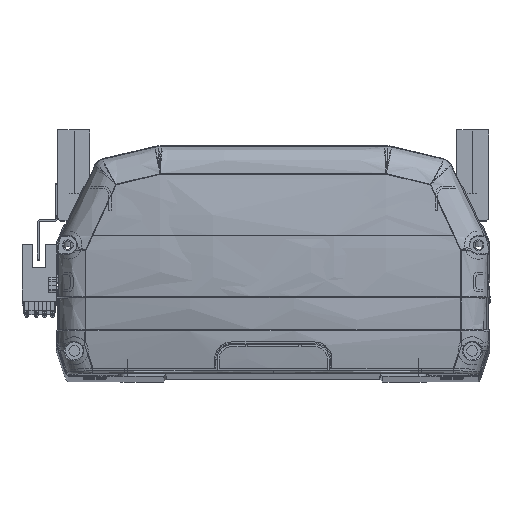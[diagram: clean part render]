
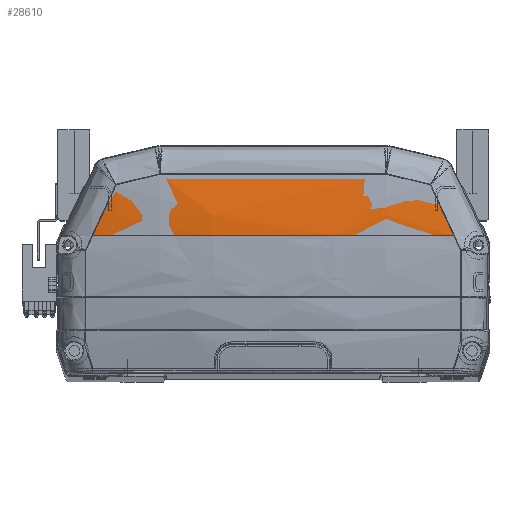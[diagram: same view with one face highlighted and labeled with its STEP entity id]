
A CAD part, top view. The second image highlights one B-rep face of the part: STEP entity #28610.
In plain terms, the highlighted toroidal (fillet/blend) face has major radius 312.5 mm and minor radius 572.4 mm.
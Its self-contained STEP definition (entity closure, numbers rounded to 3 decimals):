
#109 = CARTESIAN_POINT ( 'NONE',  ( -61.718, 75.278, -4.232 ) ) ;
#1099 = CARTESIAN_POINT ( 'NONE',  ( 44.331, 79.443, -2.97 ) ) ;
#1303 = DIRECTION ( 'NONE',  ( 0., 1., 0. ) ) ;
#2335 = AXIS2_PLACEMENT_3D ( 'NONE', #19687, #14295, #39690 ) ;
#2338 = CARTESIAN_POINT ( 'NONE',  ( -64.813, 68.545, -4.11 ) ) ;
#2477 = CARTESIAN_POINT ( 'NONE',  ( -67.917, 61.816, -4.208 ) ) ;
#3197 = VERTEX_POINT ( 'NONE', #26220 ) ;
#3637 = CARTESIAN_POINT ( 'NONE',  ( 71.027, 55.096, -4.524 ) ) ;
#3901 = CARTESIAN_POINT ( 'NONE',  ( 61.718, 75.278, -4.232 ) ) ;
#4415 = B_SPLINE_CURVE_WITH_KNOTS ( 'NONE', 3,
 ( #24257, #30210, #18079, #21319, #24110, #24382 ),
 .UNSPECIFIED., .F., .F.,
 ( 4, 2, 4 ),
 ( 0., 0.044, 0.089 ),
 .UNSPECIFIED. ) ;
#4791 = CARTESIAN_POINT ( 'NONE',  ( 71.027, 55.096, -4.524 ) ) ;
#5589 = CARTESIAN_POINT ( 'NONE',  ( -44.331, 79.443, -2.97 ) ) ;
#5936 = CARTESIAN_POINT ( 'NONE',  ( -71.027, 55.096, -4.524 ) ) ;
#6529 = VERTEX_POINT ( 'NONE', #5589 ) ;
#6772 = EDGE_CURVE ( 'NONE', #37073, #3197, #20478, .T. ) ;
#8095 = CARTESIAN_POINT ( 'NONE',  ( 55.929, 76.66, -3.711 ) ) ;
#8923 = CARTESIAN_POINT ( 'NONE',  ( -69.472, 58.454, -4.329 ) ) ;
#10374 = EDGE_LOOP ( 'NONE', ( #11947, #26284, #31065, #37841, #35741, #16845 ) ) ;
#11947 = ORIENTED_EDGE ( 'NONE', *, *, #20375, .F. ) ;
#12526 = CIRCLE ( 'NONE', #29081, 572.4 ) ;
#12691 = EDGE_CURVE ( 'NONE', #20290, #18942, #12526, .T. ) ;
#13241 = CARTESIAN_POINT ( 'NONE',  ( -61.718, 75.278, -4.232 ) ) ;
#14295 = DIRECTION ( 'NONE',  ( 1., 0., 0. ) ) ;
#16845 = ORIENTED_EDGE ( 'NONE', *, *, #27640, .F. ) ;
#17156 = B_SPLINE_CURVE_WITH_KNOTS ( 'NONE', 3,
 ( #5936, #8923, #2477, #2338, #24940, #40680 ),
 .UNSPECIFIED., .F., .F.,
 ( 4, 2, 4 ),
 ( 0.006, 0.017, 0.029 ),
 .UNSPECIFIED. ) ;
#18079 = CARTESIAN_POINT ( 'NONE',  ( -14.788, 79.361, -1.235 ) ) ;
#18942 = VERTEX_POINT ( 'NONE', #4791 ) ;
#19687 = CARTESIAN_POINT ( 'NONE',  ( 0., 55.096, -260. ) ) ;
#20290 = VERTEX_POINT ( 'NONE', #21254 ) ;
#20375 = EDGE_CURVE ( 'NONE', #20290, #34983, #17156, .T. ) ;
#20478 = B_SPLINE_CURVE_WITH_KNOTS ( 'NONE', 3,
 ( #1099, #30513, #8095, #39578 ),
 .UNSPECIFIED., .F., .F.,
 ( 4, 4 ),
 ( 0., 0.018 ),
 .UNSPECIFIED. ) ;
#20593 = TOROIDAL_SURFACE ( 'NONE', #2335, -312.5, 572.4 ) ;
#21254 = CARTESIAN_POINT ( 'NONE',  ( -71.027, 55.096, -4.524 ) ) ;
#21319 = CARTESIAN_POINT ( 'NONE',  ( 14.805, 79.361, -1.235 ) ) ;
#24110 = CARTESIAN_POINT ( 'NONE',  ( 29.579, 79.389, -1.814 ) ) ;
#24257 = CARTESIAN_POINT ( 'NONE',  ( -44.331, 79.443, -2.97 ) ) ;
#24382 = CARTESIAN_POINT ( 'NONE',  ( 44.331, 79.443, -2.97 ) ) ;
#24940 = CARTESIAN_POINT ( 'NONE',  ( -63.264, 71.911, -4.135 ) ) ;
#26117 = CARTESIAN_POINT ( 'NONE',  ( -44.331, 79.443, -2.97 ) ) ;
#26220 = CARTESIAN_POINT ( 'NONE',  ( 61.718, 75.278, -4.232 ) ) ;
#26246 = CARTESIAN_POINT ( 'NONE',  ( 67.917, 61.809, -4.135 ) ) ;
#26284 = ORIENTED_EDGE ( 'NONE', *, *, #12691, .T. ) ;
#27079 = FACE_OUTER_BOUND ( 'NONE', #10374, .T. ) ;
#27138 = CARTESIAN_POINT ( 'NONE',  ( 0., 55.096, -572.5 ) ) ;
#27640 = EDGE_CURVE ( 'NONE', #34983, #6529, #29467, .T. ) ;
#28610 = ADVANCED_FACE ( 'NONE', ( #27079 ), #20593, .T. ) ;
#29081 = AXIS2_PLACEMENT_3D ( 'NONE', #27138, #1303, #30440 ) ;
#29467 = B_SPLINE_CURVE_WITH_KNOTS ( 'NONE', 3,
 ( #13241, #38798, #39060, #26117 ),
 .UNSPECIFIED., .F., .F.,
 ( 4, 4 ),
 ( 0., 0.018 ),
 .UNSPECIFIED. ) ;
#30210 = CARTESIAN_POINT ( 'NONE',  ( -29.579, 79.39, -1.814 ) ) ;
#30440 = DIRECTION ( 'NONE',  ( 0., 0., 1. ) ) ;
#30513 = CARTESIAN_POINT ( 'NONE',  ( 50.132, 78.049, -3.29 ) ) ;
#31065 = ORIENTED_EDGE ( 'NONE', *, *, #31442, .F. ) ;
#31442 = EDGE_CURVE ( 'NONE', #3197, #18942, #38378, .T. ) ;
#34983 = VERTEX_POINT ( 'NONE', #109 ) ;
#35701 = CARTESIAN_POINT ( 'NONE',  ( 64.811, 68.545, -4.037 ) ) ;
#35741 = ORIENTED_EDGE ( 'NONE', *, *, #41355, .F. ) ;
#36255 = CARTESIAN_POINT ( 'NONE',  ( 44.331, 79.443, -2.97 ) ) ;
#37073 = VERTEX_POINT ( 'NONE', #36255 ) ;
#37841 = ORIENTED_EDGE ( 'NONE', *, *, #6772, .F. ) ;
#38378 = B_SPLINE_CURVE_WITH_KNOTS ( 'NONE', 3,
 ( #3901, #35701, #26246, #3637 ),
 .UNSPECIFIED., .F., .F.,
 ( 4, 4 ),
 ( 0., 0.022 ),
 .UNSPECIFIED. ) ;
#38798 = CARTESIAN_POINT ( 'NONE',  ( -55.929, 76.661, -3.711 ) ) ;
#39060 = CARTESIAN_POINT ( 'NONE',  ( -50.132, 78.049, -3.29 ) ) ;
#39578 = CARTESIAN_POINT ( 'NONE',  ( 61.718, 75.278, -4.232 ) ) ;
#39690 = DIRECTION ( 'NONE',  ( 0., 0., -1. ) ) ;
#40680 = CARTESIAN_POINT ( 'NONE',  ( -61.718, 75.278, -4.232 ) ) ;
#41355 = EDGE_CURVE ( 'NONE', #6529, #37073, #4415, .T. ) ;
